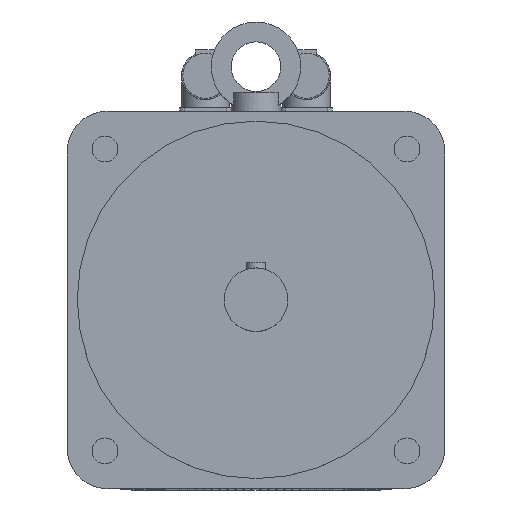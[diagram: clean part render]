
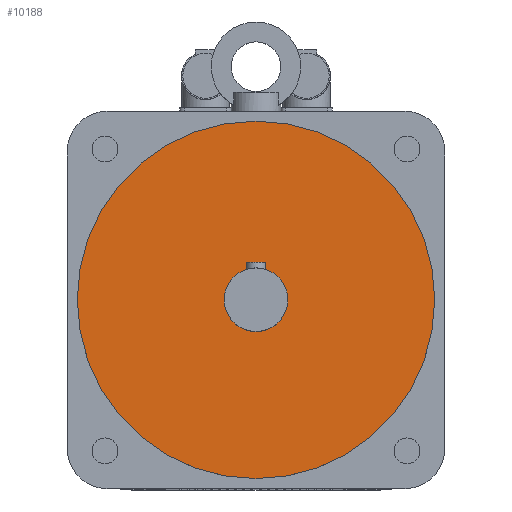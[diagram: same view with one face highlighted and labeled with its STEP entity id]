
A CAD part, top view. The second image highlights one B-rep face of the part: STEP entity #10188.
In plain terms, the highlighted planar face has unit normal (0, 0, 1).
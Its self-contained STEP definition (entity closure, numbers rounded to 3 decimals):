
#208=FACE_BOUND('',#973,.T.);
#290=FACE_OUTER_BOUND('',#972,.T.);
#972=EDGE_LOOP('',(#7169));
#973=EDGE_LOOP('',(#7170));
#1611=CIRCLE('',#10835,16.);
#1612=CIRCLE('',#10837,90.);
#4590=VERTEX_POINT('',#15520);
#4591=VERTEX_POINT('',#15523);
#5600=EDGE_CURVE('',#4590,#4590,#1611,.T.);
#5601=EDGE_CURVE('',#4591,#4591,#1612,.T.);
#7169=ORIENTED_EDGE('',*,*,#5601,.F.);
#7170=ORIENTED_EDGE('',*,*,#5600,.T.);
#9671=PLANE('',#10836);
#10188=ADVANCED_FACE('',(#290,#208),#9671,.T.);
#10835=AXIS2_PLACEMENT_3D('',#15521,#12180,#12181);
#10836=AXIS2_PLACEMENT_3D('',#15522,#12182,#12183);
#10837=AXIS2_PLACEMENT_3D('',#15524,#12184,#12185);
#12180=DIRECTION('center_axis',(0.,0.,-1.));
#12181=DIRECTION('ref_axis',(1.,0.,0.));
#12182=DIRECTION('center_axis',(0.,0.,1.));
#12183=DIRECTION('ref_axis',(1.,0.,0.));
#12184=DIRECTION('center_axis',(0.,0.,-1.));
#12185=DIRECTION('ref_axis',(1.,0.,0.));
#15520=CARTESIAN_POINT('',(0.,16.,383.));
#15521=CARTESIAN_POINT('Origin',(0.,0.,383.));
#15522=CARTESIAN_POINT('Origin',(0.,90.,383.));
#15523=CARTESIAN_POINT('',(0.,90.,383.));
#15524=CARTESIAN_POINT('Origin',(0.,0.,383.));
